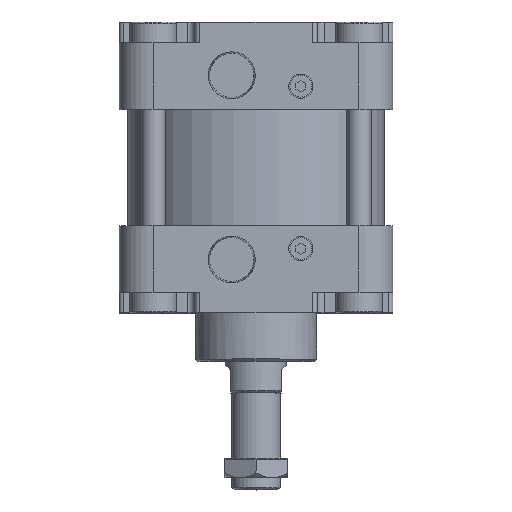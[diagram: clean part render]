
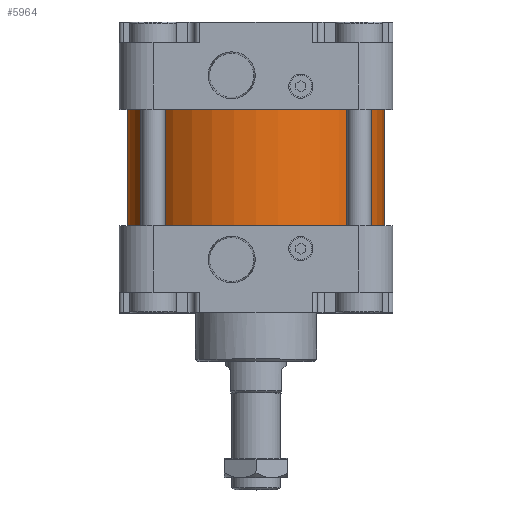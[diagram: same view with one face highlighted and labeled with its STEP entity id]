
A CAD part, top view. The second image highlights one B-rep face of the part: STEP entity #5964.
In plain terms, the highlighted cylindrical face has radius 53 mm (diameter 106 mm), a full revolution.
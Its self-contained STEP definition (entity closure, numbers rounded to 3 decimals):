
#167=CYLINDRICAL_SURFACE('',#6398,53.);
#1829=ORIENTED_EDGE('',*,*,#2544,.T.);
#1830=ORIENTED_EDGE('',*,*,#2545,.F.);
#2544=EDGE_CURVE('',#2990,#2990,#3232,.T.);
#2545=EDGE_CURVE('',#2991,#2991,#3233,.T.);
#2990=VERTEX_POINT('',#8777);
#2991=VERTEX_POINT('',#8779);
#3232=CIRCLE('',#6399,53.);
#3233=CIRCLE('',#6400,53.);
#3513=EDGE_LOOP('',(#1829));
#3514=EDGE_LOOP('',(#1830));
#3855=FACE_BOUND('',#3513,.T.);
#3856=FACE_BOUND('',#3514,.T.);
#5964=ADVANCED_FACE('',(#3855,#3856),#167,.T.);
#6398=AXIS2_PLACEMENT_3D('',#8775,#7504,#7505);
#6399=AXIS2_PLACEMENT_3D('',#8776,#7506,#7507);
#6400=AXIS2_PLACEMENT_3D('',#8778,#7508,#7509);
#7504=DIRECTION('',(0.,-1.,0.));
#7505=DIRECTION('',(0.,0.,-1.));
#7506=DIRECTION('',(0.,-1.,0.));
#7507=DIRECTION('',(0.,0.,-1.));
#7508=DIRECTION('',(0.,-1.,0.));
#7509=DIRECTION('',(0.,0.,-1.));
#8775=CARTESIAN_POINT('',(0.,17.5,0.));
#8776=CARTESIAN_POINT('',(0.,24.,0.));
#8777=CARTESIAN_POINT('',(0.,24.,-53.));
#8778=CARTESIAN_POINT('',(0.,-24.,0.));
#8779=CARTESIAN_POINT('',(0.,-24.,-53.));
